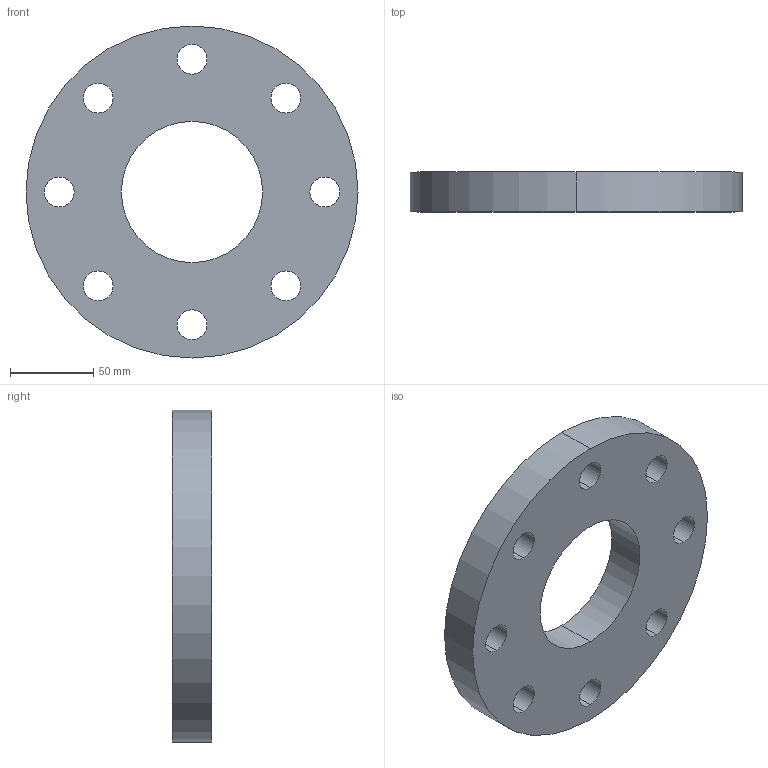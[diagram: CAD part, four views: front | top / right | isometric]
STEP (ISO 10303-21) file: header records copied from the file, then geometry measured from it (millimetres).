
FILE_DESCRIPTION (( 'STEP AP203' ), '1' );
FILE_NAME ('3D_R182-PN40_DN84_17623240.STEP', '2024-07-01T15:16:15', ( '' ), ( '' ), 'SwSTEP 2.0', 'SolidWorks 2024', '' );
FILE_SCHEMA (( 'CONFIG_CONTROL_DESIGN' ));
Length unit declared in the file: millimetre
Products named in the file (1): 3D_R182-PN40_DN84_17623240
Bounding box: 200 x 24 x 200 mm (x, y, z)
Volume: 568936.1 mm3; surface area: 79757.2 mm2
Topology: 1 solids, 1 shells, 22 faces, 60 edges, 40 vertices
Faces by surface type: cylinder 20, plane 2
Entity records: 837 total; most frequent: DIRECTION 146, CARTESIAN_POINT 123, ORIENTED_EDGE 120, AXIS2_PLACEMENT_3D 63, EDGE_CURVE 60, EDGE_LOOP 40, CIRCLE 40, VERTEX_POINT 40
